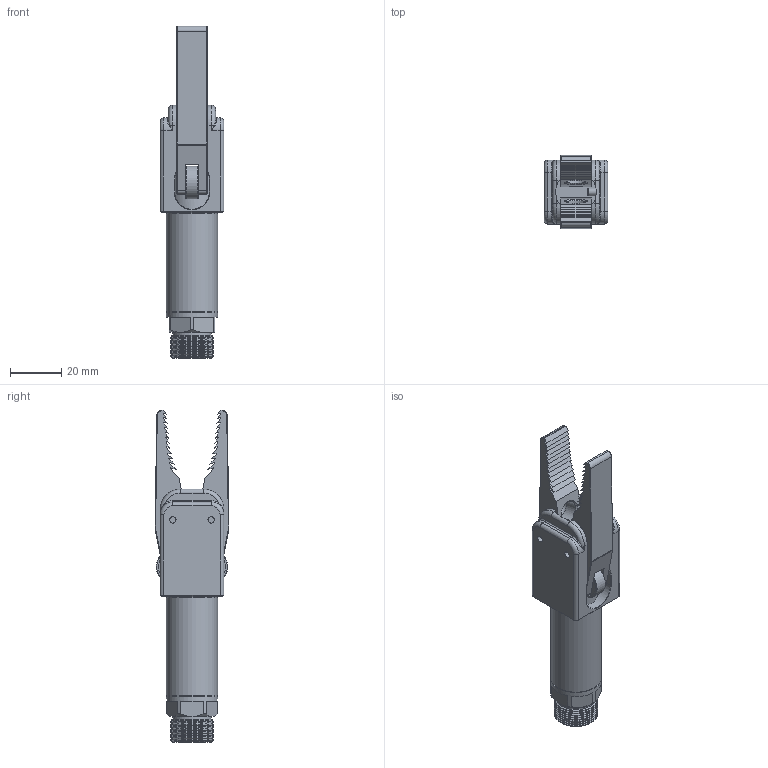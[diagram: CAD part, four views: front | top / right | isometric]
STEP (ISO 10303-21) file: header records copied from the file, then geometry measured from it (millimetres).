
FILE_DESCRIPTION(/* description */ (''),/* implementation_level */ '2;1');
FILE_NAME(/* name */ 'GRT20B.stp',/* time_stamp */ '2023-03-09T10:55:31+08:00',/* author */ (''),/* organization */ (''),/* preprocessor_version */ 'ST-DEVELOPER v16',/* originating_system */ 'SIEMENS PLM Software NX 10.0',/* authorisation */ '');
FILE_SCHEMA (('AUTOMOTIVE_DESIGN { 1 0 10303 214 3 1 1 1 }'));
Length unit declared in the file: millimetre
Products named in the file (1): Admi115498B06jr3
Bounding box: 25 x 28.95 x 130.03 mm (x, y, z)
Volume: 41160.1 mm3; surface area: 16558.7 mm2
Topology: 2 solids, 2 shells, 416 faces, 1095 edges, 684 vertices
Faces by surface type: plane 199, cylinder 121, cone 64, torus 24, bspline 8
Full cylindrical faces by diameter (mm): 0.5 x1, 2 x1, 2.5 x2, 3 x2, 3.4 x1, 4 x6, 5.54 x1, 8 x2, 8.8 x1, 15 x1, 16 x1, 17 x8, 20 x2
Entity records: 13978 total; most frequent: CARTESIAN_POINT 3114, DIRECTION 2068, ORIENTED_EDGE 2024, EDGE_CURVE 1012, AXIS2_PLACEMENT_3D 748, VERTEX_POINT 668, LINE 572, VECTOR 572
